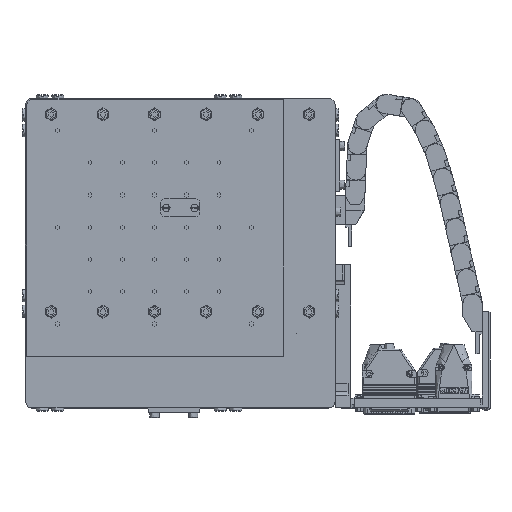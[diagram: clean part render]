
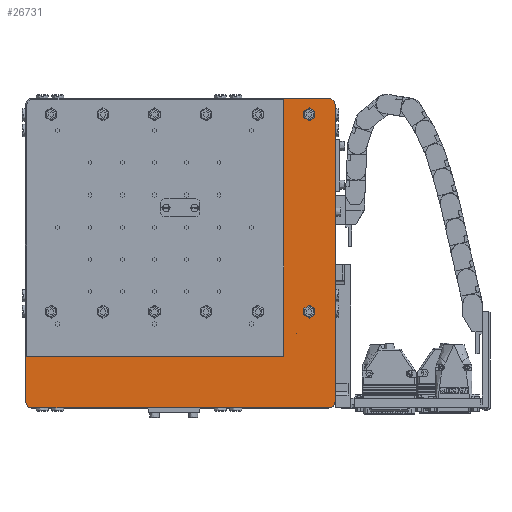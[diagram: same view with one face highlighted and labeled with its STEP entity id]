
A CAD part, top view. The second image highlights one B-rep face of the part: STEP entity #26731.
In plain terms, the highlighted planar face has unit normal (0, 0, 1).
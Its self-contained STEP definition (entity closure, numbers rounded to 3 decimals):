
#21836=CARTESIAN_POINT('',(163.007,4.117,74.));
#21837=VERTEX_POINT('',#21836);
#21846=CARTESIAN_POINT('',(163.007,-5.883,74.));
#21847=VERTEX_POINT('',#21846);
#21848=CARTESIAN_POINT('',(163.007,-0.883,74.));
#21849=DIRECTION('',(0.0,0.0,-1.0));
#21850=DIRECTION('',(0.0,1.0,0.0));
#21851=AXIS2_PLACEMENT_3D('',#21848,#21849,#21850);
#21852=CIRCLE('',#21851,5.0);
#21853=EDGE_CURVE('',#21847,#21837,#21852,.T.);
#22529=CARTESIAN_POINT('',(163.007,157.117,74.));
#22530=VERTEX_POINT('',#22529);
#22539=CARTESIAN_POINT('',(163.007,147.117,74.));
#22540=VERTEX_POINT('',#22539);
#22541=CARTESIAN_POINT('',(163.007,152.117,74.));
#22542=DIRECTION('',(0.0,0.0,-1.0));
#22543=DIRECTION('',(0.0,1.0,0.0));
#22544=AXIS2_PLACEMENT_3D('',#22541,#22542,#22543);
#22545=CIRCLE('',#22544,5.0);
#22546=EDGE_CURVE('',#22540,#22530,#22545,.T.);
#24210=CARTESIAN_POINT('',(163.007,152.117,74.));
#24211=DIRECTION('',(0.0,0.0,-1.0));
#24212=DIRECTION('',(0.0,1.0,0.0));
#24213=AXIS2_PLACEMENT_3D('',#24210,#24211,#24212);
#24214=CIRCLE('',#24213,5.0);
#24215=EDGE_CURVE('',#22530,#22540,#24214,.T.);
#24705=CARTESIAN_POINT('',(163.007,-0.883,74.));
#24706=DIRECTION('',(0.0,0.0,-1.0));
#24707=DIRECTION('',(0.0,1.0,0.0));
#24708=AXIS2_PLACEMENT_3D('',#24705,#24706,#24707);
#24709=CIRCLE('',#24708,5.0);
#24710=EDGE_CURVE('',#21837,#21847,#24709,.T.);
#26205=CARTESIAN_POINT('',(-56.993,-35.383,74.));
#26206=VERTEX_POINT('',#26205);
#26280=CARTESIAN_POINT('',(143.007,164.617,74.));
#26281=VERTEX_POINT('',#26280);
#26538=CARTESIAN_POINT('',(143.007,-35.383,74.));
#26539=VERTEX_POINT('',#26538);
#26540=CARTESIAN_POINT('',(-56.993,-35.383,74.));
#26541=DIRECTION('',(1.0,0.0,0.0));
#26542=VECTOR('',#26541,200.0);
#26543=LINE('',#26540,#26542);
#26544=EDGE_CURVE('',#26206,#26539,#26543,.T.);
#26584=CARTESIAN_POINT('',(178.007,164.617,74.));
#26585=VERTEX_POINT('',#26584);
#26586=CARTESIAN_POINT('',(143.007,164.617,74.));
#26587=DIRECTION('',(1.0,0.0,0.0));
#26588=VECTOR('',#26587,35.0);
#26589=LINE('',#26586,#26588);
#26590=EDGE_CURVE('',#26281,#26585,#26589,.T.);
#26632=CARTESIAN_POINT('',(-51.993,-75.383,74.));
#26633=VERTEX_POINT('',#26632);
#26634=CARTESIAN_POINT('',(-56.993,-70.383,74.));
#26635=VERTEX_POINT('',#26634);
#26636=CARTESIAN_POINT('',(-51.993,-70.383,74.));
#26637=DIRECTION('',(0.,0.,-1.0));
#26638=DIRECTION('',(-0.707,-0.707,0.));
#26639=AXIS2_PLACEMENT_3D('',#26636,#26637,#26638);
#26640=CIRCLE('',#26639,5.);
#26641=EDGE_CURVE('',#26633,#26635,#26640,.T.);
#26669=CARTESIAN_POINT('',(104.674,2.95,74.));
#26670=DIRECTION('',(0.0,0.0,1.0));
#26671=DIRECTION('',(1.0,0.0,0.0));
#26672=AXIS2_PLACEMENT_3D('',#26669,#26670,#26671);
#26673=PLANE('',#26672);
#26674=ORIENTED_EDGE('',*,*,#26641,.F.);
#26675=CARTESIAN_POINT('',(178.007,-75.383,74.));
#26676=VERTEX_POINT('',#26675);
#26677=CARTESIAN_POINT('',(178.007,-75.383,74.));
#26678=DIRECTION('',(-1.0,0.0,0.0));
#26679=VECTOR('',#26678,230.0);
#26680=LINE('',#26677,#26679);
#26681=EDGE_CURVE('',#26676,#26633,#26680,.T.);
#26682=ORIENTED_EDGE('',*,*,#26681,.F.);
#26683=CARTESIAN_POINT('',(183.007,-70.383,74.));
#26684=VERTEX_POINT('',#26683);
#26685=CARTESIAN_POINT('',(178.007,-70.383,74.));
#26686=DIRECTION('',(0.,0.,-1.0));
#26687=DIRECTION('',(0.707,-0.707,0.));
#26688=AXIS2_PLACEMENT_3D('',#26685,#26686,#26687);
#26689=CIRCLE('',#26688,5.);
#26690=EDGE_CURVE('',#26684,#26676,#26689,.T.);
#26691=ORIENTED_EDGE('',*,*,#26690,.F.);
#26692=CARTESIAN_POINT('',(183.007,159.617,74.));
#26693=VERTEX_POINT('',#26692);
#26694=CARTESIAN_POINT('',(183.007,159.617,74.));
#26695=DIRECTION('',(0.0,-1.0,0.0));
#26696=VECTOR('',#26695,230.);
#26697=LINE('',#26694,#26696);
#26698=EDGE_CURVE('',#26693,#26684,#26697,.T.);
#26699=ORIENTED_EDGE('',*,*,#26698,.F.);
#26700=CARTESIAN_POINT('',(178.007,159.617,74.));
#26701=DIRECTION('',(0.,0.,-1.0));
#26702=DIRECTION('',(0.707,0.707,0.));
#26703=AXIS2_PLACEMENT_3D('',#26700,#26701,#26702);
#26704=CIRCLE('',#26703,5.);
#26705=EDGE_CURVE('',#26585,#26693,#26704,.T.);
#26706=ORIENTED_EDGE('',*,*,#26705,.F.);
#26707=ORIENTED_EDGE('',*,*,#26590,.F.);
#26708=CARTESIAN_POINT('',(143.007,-35.383,74.));
#26709=DIRECTION('',(0.0,1.0,0.0));
#26710=VECTOR('',#26709,200.0);
#26711=LINE('',#26708,#26710);
#26712=EDGE_CURVE('',#26539,#26281,#26711,.T.);
#26713=ORIENTED_EDGE('',*,*,#26712,.F.);
#26714=ORIENTED_EDGE('',*,*,#26544,.F.);
#26715=CARTESIAN_POINT('',(-56.993,-70.383,74.));
#26716=DIRECTION('',(0.0,1.0,0.0));
#26717=VECTOR('',#26716,35.);
#26718=LINE('',#26715,#26717);
#26719=EDGE_CURVE('',#26635,#26206,#26718,.T.);
#26720=ORIENTED_EDGE('',*,*,#26719,.F.);
#26721=EDGE_LOOP('',(#26674,#26682,#26691,#26699,#26706,#26707,#26713,#26714,#26720));
#26722=FACE_OUTER_BOUND('',#26721,.T.);
#26723=ORIENTED_EDGE('',*,*,#21853,.T.);
#26724=ORIENTED_EDGE('',*,*,#24710,.T.);
#26725=EDGE_LOOP('',(#26723,#26724));
#26726=FACE_BOUND('',#26725,.T.);
#26727=ORIENTED_EDGE('',*,*,#22546,.T.);
#26728=ORIENTED_EDGE('',*,*,#24215,.T.);
#26729=EDGE_LOOP('',(#26727,#26728));
#26730=FACE_BOUND('',#26729,.T.);
#26731=ADVANCED_FACE('',(#26722,#26726,#26730),#26673,.T.);
